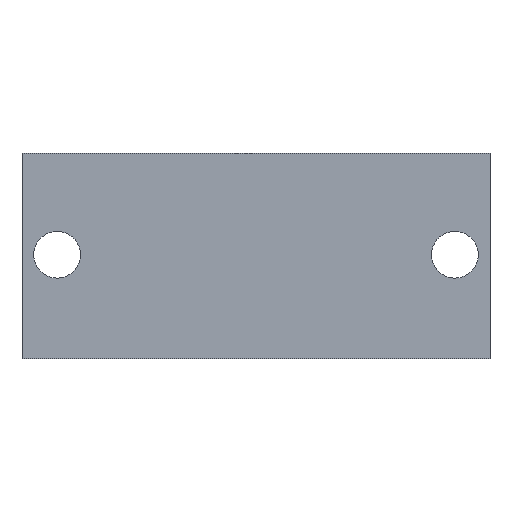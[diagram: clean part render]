
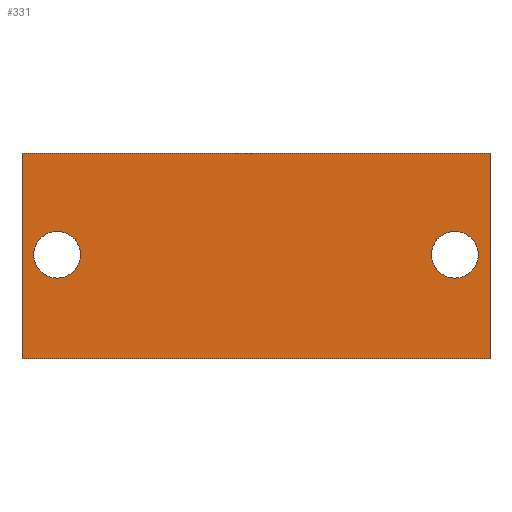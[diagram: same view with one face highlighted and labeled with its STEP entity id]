
A CAD part, top view. The second image highlights one B-rep face of the part: STEP entity #331.
In plain terms, the highlighted planar face has unit normal (0, 0, 1).
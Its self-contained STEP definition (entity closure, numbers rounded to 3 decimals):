
#16 = CARTESIAN_POINT ( 'NONE',  ( 12.75, 0.08, 2. ) ) ;
#24 = ORIENTED_EDGE ( 'NONE', *, *, #289, .F. ) ;
#30 = ORIENTED_EDGE ( 'NONE', *, *, #268, .T. ) ;
#31 = CARTESIAN_POINT ( 'NONE',  ( 12.75, 0.08, 2. ) ) ;
#37 = ORIENTED_EDGE ( 'NONE', *, *, #296, .T. ) ;
#45 = DIRECTION ( 'NONE',  ( 0., 0., 1. ) ) ;
#49 = DIRECTION ( 'NONE',  ( 1., 0., 0. ) ) ;
#58 = CARTESIAN_POINT ( 'NONE',  ( 15., 6.58, 2. ) ) ;
#59 = CARTESIAN_POINT ( 'NONE',  ( 0., 0., 2. ) ) ;
#60 = EDGE_LOOP ( 'NONE', ( #24, #84 ) ) ;
#67 = LINE ( 'NONE', #219, #292 ) ;
#70 = DIRECTION ( 'NONE',  ( 0., 1., 0. ) ) ;
#84 = ORIENTED_EDGE ( 'NONE', *, *, #97, .F. ) ;
#89 = EDGE_CURVE ( 'NONE', #353, #93, #67, .T. ) ;
#93 = VERTEX_POINT ( 'NONE', #193 ) ;
#97 = EDGE_CURVE ( 'NONE', #235, #323, #113, .T. ) ;
#98 = EDGE_LOOP ( 'NONE', ( #325, #37, #157, #30 ) ) ;
#102 = VECTOR ( 'NONE', #70, 1000. ) ;
#103 = CARTESIAN_POINT ( 'NONE',  ( -14.25, 0.08, 2. ) ) ;
#110 = CIRCLE ( 'NONE', #141, 1.5 ) ;
#113 = CIRCLE ( 'NONE', #332, 1.5 ) ;
#117 = DIRECTION ( 'NONE',  ( 1., 0., 0. ) ) ;
#118 = VECTOR ( 'NONE', #146, 1000. ) ;
#126 = AXIS2_PLACEMENT_3D ( 'NONE', #31, #320, #144 ) ;
#127 = VERTEX_POINT ( 'NONE', #284 ) ;
#138 = VECTOR ( 'NONE', #295, 1000. ) ;
#141 = AXIS2_PLACEMENT_3D ( 'NONE', #224, #45, #49 ) ;
#143 = VERTEX_POINT ( 'NONE', #103 ) ;
#144 = DIRECTION ( 'NONE',  ( 1., 0., 0. ) ) ;
#146 = DIRECTION ( 'NONE',  ( 1., 0., 0. ) ) ;
#149 = CIRCLE ( 'NONE', #126, 1.5 ) ;
#153 = ORIENTED_EDGE ( 'NONE', *, *, #160, .F. ) ;
#157 = ORIENTED_EDGE ( 'NONE', *, *, #225, .T. ) ;
#159 = CARTESIAN_POINT ( 'NONE',  ( 14.25, 0.08, 2. ) ) ;
#160 = EDGE_CURVE ( 'NONE', #234, #143, #110, .T. ) ;
#168 = DIRECTION ( 'NONE',  ( 1., 0., 0. ) ) ;
#179 = LINE ( 'NONE', #58, #138 ) ;
#182 = FACE_OUTER_BOUND ( 'NONE', #98, .T. ) ;
#185 = DIRECTION ( 'NONE',  ( 0., -1., 0. ) ) ;
#193 = CARTESIAN_POINT ( 'NONE',  ( -15., -6.58, 2. ) ) ;
#199 = CARTESIAN_POINT ( 'NONE',  ( 15., -6.58, 2. ) ) ;
#203 = ORIENTED_EDGE ( 'NONE', *, *, #259, .F. ) ;
#212 = CARTESIAN_POINT ( 'NONE',  ( -15., 6.58, 2. ) ) ;
#219 = CARTESIAN_POINT ( 'NONE',  ( -15., -6.58, 2. ) ) ;
#222 = LINE ( 'NONE', #199, #102 ) ;
#224 = CARTESIAN_POINT ( 'NONE',  ( -12.75, 0.08, 2. ) ) ;
#225 = EDGE_CURVE ( 'NONE', #330, #127, #222, .T. ) ;
#232 = DIRECTION ( 'NONE',  ( 0., 0., 1. ) ) ;
#234 = VERTEX_POINT ( 'NONE', #308 ) ;
#235 = VERTEX_POINT ( 'NONE', #159 ) ;
#236 = CARTESIAN_POINT ( 'NONE',  ( 15., -6.58, 2. ) ) ;
#259 = EDGE_CURVE ( 'NONE', #143, #234, #267, .T. ) ;
#267 = CIRCLE ( 'NONE', #364, 1.5 ) ;
#268 = EDGE_CURVE ( 'NONE', #127, #353, #179, .T. ) ;
#269 = CARTESIAN_POINT ( 'NONE',  ( 15., -6.58, 2. ) ) ;
#284 = CARTESIAN_POINT ( 'NONE',  ( 15., 6.58, 2. ) ) ;
#289 = EDGE_CURVE ( 'NONE', #323, #235, #149, .T. ) ;
#290 = PLANE ( 'NONE',  #318 ) ;
#292 = VECTOR ( 'NONE', #185, 1000. ) ;
#295 = DIRECTION ( 'NONE',  ( -1., 0., 0. ) ) ;
#296 = EDGE_CURVE ( 'NONE', #93, #330, #300, .T. ) ;
#298 = DIRECTION ( 'NONE',  ( 1., 0., 0. ) ) ;
#300 = LINE ( 'NONE', #269, #118 ) ;
#308 = CARTESIAN_POINT ( 'NONE',  ( -11.25, 0.08, 2. ) ) ;
#318 = AXIS2_PLACEMENT_3D ( 'NONE', #59, #384, #298 ) ;
#320 = DIRECTION ( 'NONE',  ( 0., 0., 1. ) ) ;
#322 = CARTESIAN_POINT ( 'NONE',  ( -12.75, 0.08, 2. ) ) ;
#323 = VERTEX_POINT ( 'NONE', #326 ) ;
#325 = ORIENTED_EDGE ( 'NONE', *, *, #89, .T. ) ;
#326 = CARTESIAN_POINT ( 'NONE',  ( 11.25, 0.08, 2. ) ) ;
#328 = FACE_BOUND ( 'NONE', #334, .T. ) ;
#330 = VERTEX_POINT ( 'NONE', #236 ) ;
#331 = ADVANCED_FACE ( 'NONE', ( #328, #182, #354 ), #290, .T. ) ;
#332 = AXIS2_PLACEMENT_3D ( 'NONE', #16, #377, #168 ) ;
#334 = EDGE_LOOP ( 'NONE', ( #203, #153 ) ) ;
#353 = VERTEX_POINT ( 'NONE', #212 ) ;
#354 = FACE_BOUND ( 'NONE', #60, .T. ) ;
#364 = AXIS2_PLACEMENT_3D ( 'NONE', #322, #232, #117 ) ;
#377 = DIRECTION ( 'NONE',  ( 0., 0., 1. ) ) ;
#384 = DIRECTION ( 'NONE',  ( 0., 0., 1. ) ) ;
